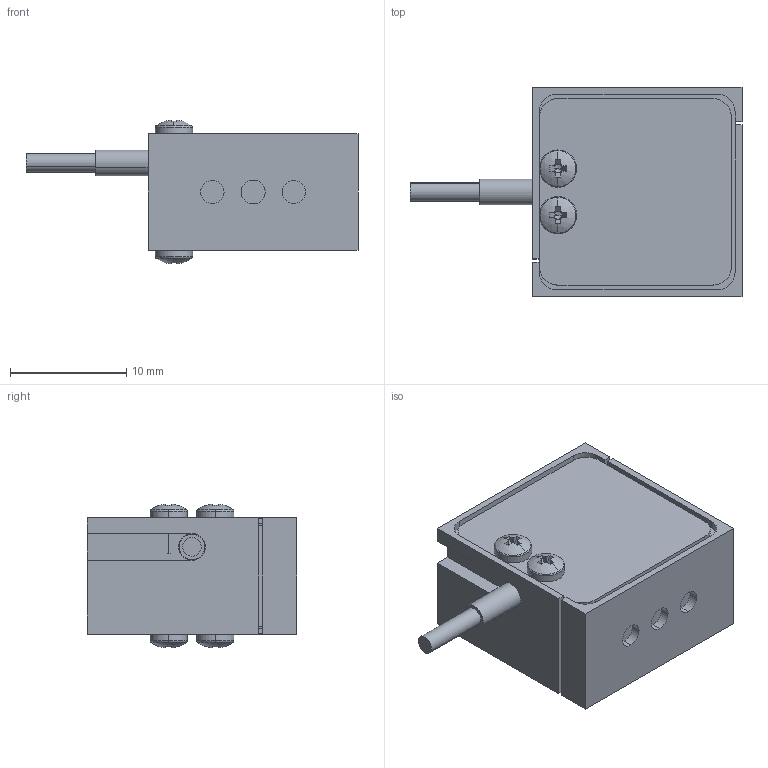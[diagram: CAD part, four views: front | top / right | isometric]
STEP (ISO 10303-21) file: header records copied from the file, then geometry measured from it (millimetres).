
FILE_DESCRIPTION (( 'STEP AP203' ), '1' );
FILE_NAME ('KD18s Kabel horizontal.STEP', '2021-01-13T13:32:17', ( '' ), ( '' ), 'SwSTEP 2.0', 'SolidWorks 2018', '' );
FILE_SCHEMA (( 'CONFIG_CONTROL_DESIGN' ));
Length unit declared in the file: millimetre
Products named in the file (5): E-2020-0027-00546_K-Modell; KD18s Kabel horizontal; pan head cross recess screw_din_DIN EN ISO 7045 - M1.6 x 3 - Z - 3N; NT-2018-00034_3,1m; E-2020-0027-00574
Assembly tree (8 placements, depth 2):
  KD18s Kabel horizontal
    E-2020-0027-00546_K-Modell
    E-2020-0027-00574  x2
    pan head cross recess screw_din_DIN EN ISO 7045 - M1.6 x 3 - Z - 3N  x4
    NT-2018-00034_3,1m
Bounding box: 28.5 x 18 x 12.33 mm (x, y, z)
Volume: 2074 mm3; surface area: 3186.2 mm2
Topology: 8 solids, 8 shells, 303 faces, 750 edges, 460 vertices
Faces by surface type: plane 157, cylinder 74, cone 48, torus 16, sphere 8
Entity records: 5487 total; most frequent: DIRECTION 893, CARTESIAN_POINT 868, ORIENTED_EDGE 804, EDGE_CURVE 402, AXIS2_PLACEMENT_3D 333, VERTEX_POINT 256, VECTOR 227, LINE 227
